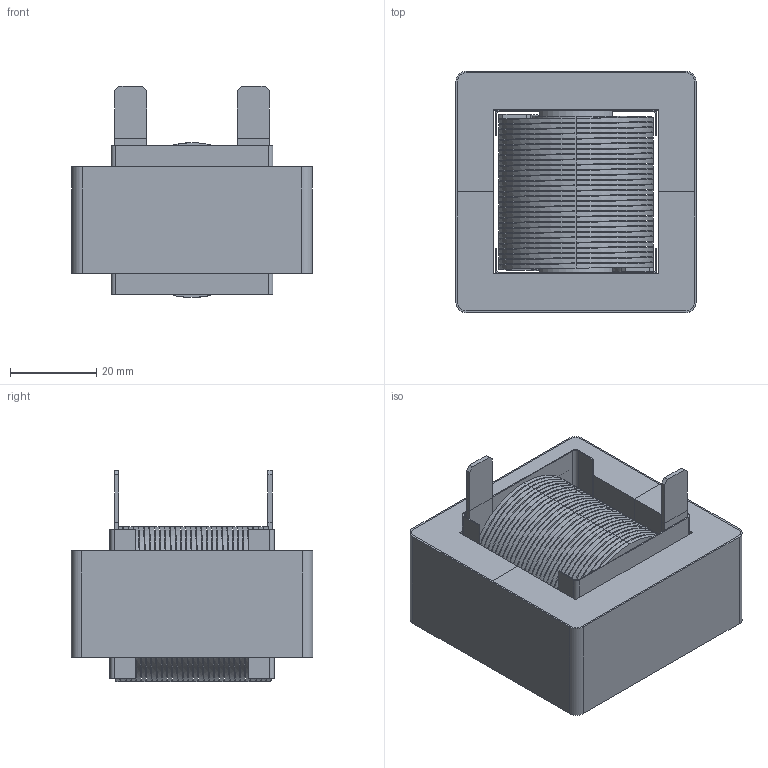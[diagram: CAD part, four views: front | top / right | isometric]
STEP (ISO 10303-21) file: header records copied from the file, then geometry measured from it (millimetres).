
FILE_DESCRIPTION (( 'STEP AP214' ), '1' );
FILE_NAME ('ES55244-131M-45AH.STEP', '2021-04-19T09:10:12', ( '' ), ( '' ), 'SwSTEP 2.0', 'SolidWorks 2015', '' );
FILE_SCHEMA (( 'AUTOMOTIVE_DESIGN' ));
Length unit declared in the file: millimetre
Products named in the file (6): WRAPPER; CENTER MYLAR; ES55244-131M-45AH; E CORE; HELICAL COIL; SIDE MYLAR
Assembly tree (7 placements, depth 2):
  ES55244-131M-45AH
    HELICAL COIL
    E CORE  x2
    SIDE MYLAR  x2
    CENTER MYLAR
    WRAPPER
Bounding box: 55.62 x 55.9 x 48.85 mm (x, y, z)
Volume: 71996.4 mm3; surface area: 81768 mm2
Topology: 9 solids, 9 shells, 392 faces, 1060 edges, 704 vertices
Faces by surface type: plane 181, cylinder 152, bspline 59
Entity records: 19546 total; most frequent: CARTESIAN_POINT 9490, ORIENTED_EDGE 1952, DIRECTION 1284, EDGE_CURVE 976, VERTEX_POINT 648, VECTOR 576, LINE 576, EDGE_LOOP 382
